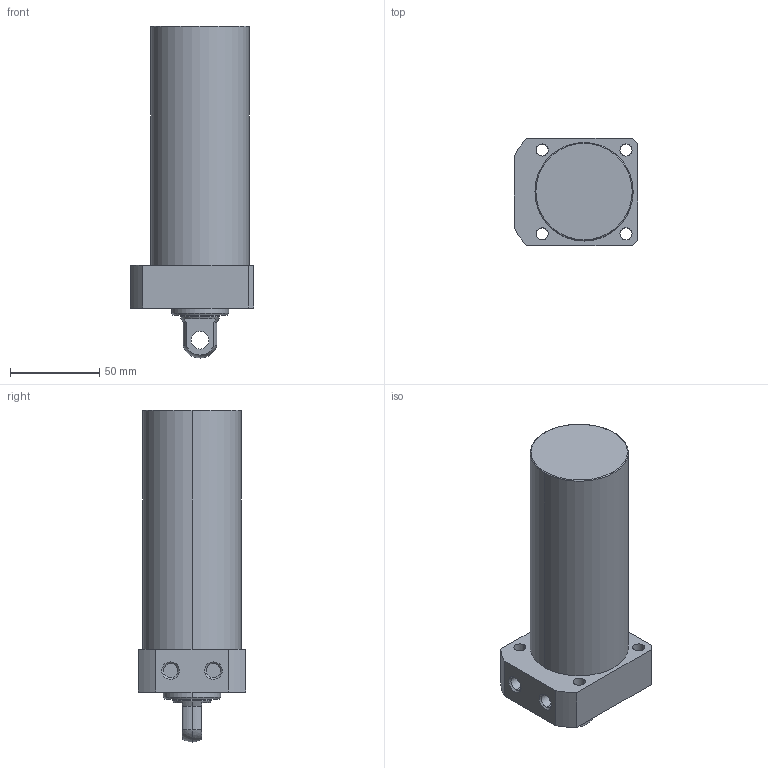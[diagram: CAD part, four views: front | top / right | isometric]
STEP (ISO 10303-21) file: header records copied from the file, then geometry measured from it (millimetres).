
FILE_DESCRIPTION (( 'STEP AP203' ), '1' );
FILE_NAME ('CLLR-055CP-105.STEP', '2019-12-17T12:37:09', ( '' ), ( '' ), 'SwSTEP 2.0', 'SolidWorks 2015', '' );
FILE_SCHEMA (( 'CONFIG_CONTROL_DESIGN' ));
Length unit declared in the file: millimetre
Products named in the file (1): CLLR-055CP-105
Bounding box: 69 x 60 x 186 mm (x, y, z)
Volume: 417885 mm3; surface area: 41371.6 mm2
Topology: 1 solids, 1 shells, 59 faces, 139 edges, 89 vertices
Faces by surface type: cylinder 29, plane 18, cone 8, torus 2, sphere 2
Entity records: 1822 total; most frequent: DIRECTION 331, CARTESIAN_POINT 300, ORIENTED_EDGE 278, EDGE_CURVE 139, AXIS2_PLACEMENT_3D 136, VERTEX_POINT 89, EDGE_LOOP 76, CIRCLE 76
